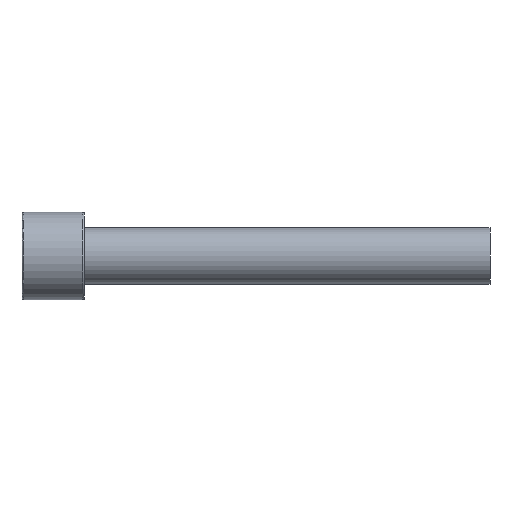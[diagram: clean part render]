
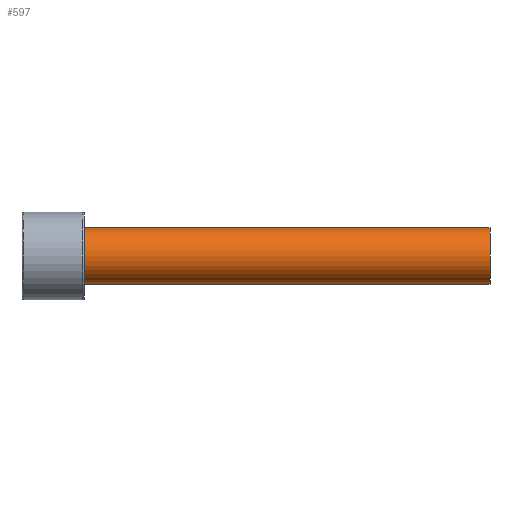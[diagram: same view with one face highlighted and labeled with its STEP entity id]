
A CAD part, front view. The second image highlights one B-rep face of the part: STEP entity #597.
In plain terms, the highlighted cylindrical face has radius 9 mm (diameter 18 mm), a partial arc.
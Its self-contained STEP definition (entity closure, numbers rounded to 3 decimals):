
#431=CARTESIAN_POINT('Vertex',(150.,0.,9.)) ;
#434=CARTESIAN_POINT('Axis2P3D Location',(150.,0.,0.)) ;
#438=CARTESIAN_POINT('Vertex',(150.,-9.,0.)) ;
#441=CARTESIAN_POINT('Axis2P3D Location',(150.,0.,0.)) ;
#445=CARTESIAN_POINT('Vertex',(150.,0.,-9.)) ;
#537=CARTESIAN_POINT('Line Origine',(150.,0.,9.)) ;
#541=CARTESIAN_POINT('Vertex',(20.,0.,9.)) ;
#544=CARTESIAN_POINT('Line Origine',(150.,0.,-9.)) ;
#548=CARTESIAN_POINT('Vertex',(20.,0.,-9.)) ;
#572=CARTESIAN_POINT('Axis2P3D Location',(150.,0.,0.)) ;
#577=CARTESIAN_POINT('Axis2P3D Location',(20.,0.,0.)) ;
#581=CARTESIAN_POINT('Vertex',(20.,-9.,0.)) ;
#584=CARTESIAN_POINT('Axis2P3D Location',(20.,0.,0.)) ;
#435=DIRECTION('Axis2P3D Direction',(1.,0.,-0.)) ;
#442=DIRECTION('Axis2P3D Direction',(1.,0.,-0.)) ;
#538=DIRECTION('Vector Direction',(-1.,0.,0.)) ;
#545=DIRECTION('Vector Direction',(-1.,0.,0.)) ;
#573=DIRECTION('Axis2P3D Direction',(-1.,-0.,-0.)) ;
#574=DIRECTION('Axis2P3D XDirection',(0.,0.,-1.)) ;
#578=DIRECTION('Axis2P3D Direction',(-1.,-0.,-0.)) ;
#585=DIRECTION('Axis2P3D Direction',(-1.,-0.,-0.)) ;
#436=AXIS2_PLACEMENT_3D('Circle Axis2P3D',#434,#435,$) ;
#443=AXIS2_PLACEMENT_3D('Circle Axis2P3D',#441,#442,$) ;
#575=AXIS2_PLACEMENT_3D('Cylinder Axis2P3D',#572,#573,#574) ;
#579=AXIS2_PLACEMENT_3D('Circle Axis2P3D',#577,#578,$) ;
#586=AXIS2_PLACEMENT_3D('Circle Axis2P3D',#584,#585,$) ;
#590=ORIENTED_EDGE('',*,*,#550,.T.) ;
#591=ORIENTED_EDGE('',*,*,#447,.F.) ;
#592=ORIENTED_EDGE('',*,*,#440,.F.) ;
#593=ORIENTED_EDGE('',*,*,#543,.T.) ;
#594=ORIENTED_EDGE('',*,*,#583,.T.) ;
#595=ORIENTED_EDGE('',*,*,#588,.T.) ;
#539=VECTOR('Line Direction',#538,1.) ;
#546=VECTOR('Line Direction',#545,1.) ;
#597=ADVANCED_FACE('367F-18X150',(#596),#576,.T.) ;
#437=CIRCLE('generated circle',#436,9.) ;
#444=CIRCLE('generated circle',#443,9.) ;
#580=CIRCLE('generated circle',#579,9.) ;
#587=CIRCLE('generated circle',#586,9.) ;
#576=CYLINDRICAL_SURFACE('generated cylinder',#575,9.) ;
#440=EDGE_CURVE('',#432,#439,#437,.T.) ;
#447=EDGE_CURVE('',#439,#446,#444,.T.) ;
#543=EDGE_CURVE('',#432,#542,#540,.T.) ;
#550=EDGE_CURVE('',#549,#446,#547,.F.) ;
#583=EDGE_CURVE('',#542,#582,#580,.F.) ;
#588=EDGE_CURVE('',#582,#549,#587,.F.) ;
#589=EDGE_LOOP('',(#590,#591,#592,#593,#594,#595)) ;
#596=FACE_OUTER_BOUND('',#589,.T.) ;
#540=LINE('Line',#537,#539) ;
#547=LINE('Line',#544,#546) ;
#432=VERTEX_POINT('',#431) ;
#439=VERTEX_POINT('',#438) ;
#446=VERTEX_POINT('',#445) ;
#542=VERTEX_POINT('',#541) ;
#549=VERTEX_POINT('',#548) ;
#582=VERTEX_POINT('',#581) ;
